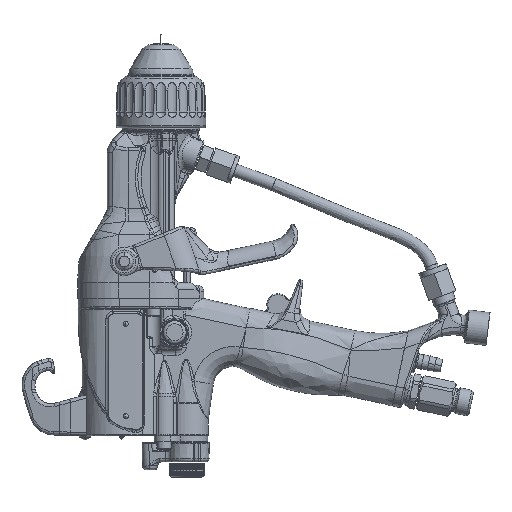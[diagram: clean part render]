
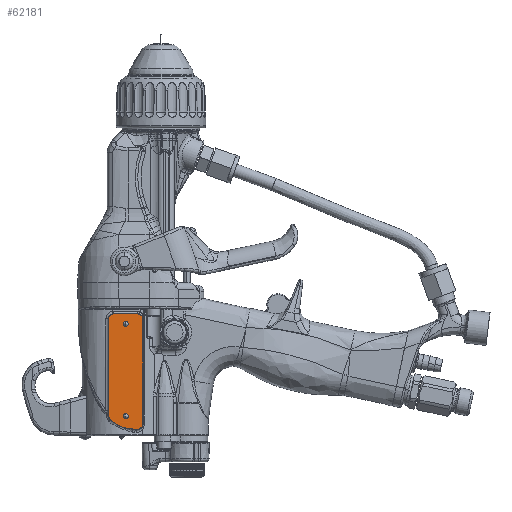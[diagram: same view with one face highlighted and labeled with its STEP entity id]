
A CAD part, left-side view. The second image highlights one B-rep face of the part: STEP entity #62181.
In plain terms, the highlighted planar face has unit normal (-1, 0, 0).
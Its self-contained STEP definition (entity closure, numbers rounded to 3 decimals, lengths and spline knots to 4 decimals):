
#53945=CARTESIAN_POINT('',(-0.755,0.4555,-4.42));
#53946=DIRECTION('',(-1.,0.,0.));
#53947=DIRECTION('',(0.,-1.,0.));
#53948=AXIS2_PLACEMENT_3D('',#53945,#53946,#53947);
#53950=DIRECTION('',(0.,0.,1.));
#53951=VECTOR('',#53950,2.062);
#53952=CARTESIAN_POINT('',(-0.755,0.357,-6.482));
#53953=LINE('',#53952,#53951);
#53954=CARTESIAN_POINT('',(-0.755,0.4555,-6.482));
#53955=DIRECTION('',(-1.,0.,0.));
#53956=DIRECTION('',(0.,0.,-1.));
#53957=AXIS2_PLACEMENT_3D('',#53954,#53955,#53956);
#53959=DIRECTION('',(0.,-1.,0.));
#53960=VECTOR('',#53959,0.087);
#53961=CARTESIAN_POINT('',(-0.755,0.5425,-6.5805));
#53962=LINE('',#53961,#53960);
#53963=CARTESIAN_POINT('',(-0.755,0.5425,-5.942));
#53964=DIRECTION('',(-1.,0.,0.));
#53965=DIRECTION('',(0.,0.713,-0.701));
#53966=AXIS2_PLACEMENT_3D('',#53963,#53964,#53965);
#53968=CARTESIAN_POINT('',(-0.755,0.9205,-6.3135));
#53969=DIRECTION('',(-1.,0.,0.));
#53970=DIRECTION('',(0.,1.,0.));
#53971=AXIS2_PLACEMENT_3D('',#53968,#53969,#53970);
#53973=DIRECTION('',(0.,0.,-1.));
#53974=VECTOR('',#53973,1.8935);
#53975=CARTESIAN_POINT('',(-0.755,1.029,-4.42));
#53976=LINE('',#53975,#53974);
#53977=CARTESIAN_POINT('',(-0.755,0.9305,-4.42));
#53978=DIRECTION('',(-1.,0.,0.));
#53979=DIRECTION('',(0.,0.,1.));
#53980=AXIS2_PLACEMENT_3D('',#53977,#53978,#53979);
#53982=DIRECTION('',(0.,-1.,0.));
#53983=VECTOR('',#53982,0.475);
#53984=CARTESIAN_POINT('',(-0.755,0.9305,-4.3215));
#53985=LINE('',#53984,#53983);
#58632=CARTESIAN_POINT('',(-0.755,0.357,-4.42));
#58633=CARTESIAN_POINT('',(-0.755,0.4555,-4.3215));
#58634=VERTEX_POINT('',#58632);
#58635=VERTEX_POINT('',#58633);
#58636=CARTESIAN_POINT('',(-0.755,0.9305,-4.3215));
#58637=VERTEX_POINT('',#58636);
#58638=CARTESIAN_POINT('',(-0.755,1.029,-4.42));
#58639=VERTEX_POINT('',#58638);
#58640=CARTESIAN_POINT('',(-0.755,1.029,-6.3135));
#58641=VERTEX_POINT('',#58640);
#58642=CARTESIAN_POINT('',(-0.755,0.9979,-6.3895));
#58643=VERTEX_POINT('',#58642);
#58644=CARTESIAN_POINT('',(-0.755,0.5425,-6.5805));
#58645=VERTEX_POINT('',#58644);
#58646=CARTESIAN_POINT('',(-0.755,0.4555,-6.5805));
#58647=VERTEX_POINT('',#58646);
#58648=CARTESIAN_POINT('',(-0.755,0.357,-6.482));
#58649=VERTEX_POINT('',#58648);
#62156=CARTESIAN_POINT('',(-0.755,0.1305,-3.75));
#62157=DIRECTION('',(1.,0.,0.));
#62158=DIRECTION('',(0.,0.,-1.));
#62159=AXIS2_PLACEMENT_3D('',#62156,#62157,#62158);
#62160=PLANE('',#62159);
#62162=ORIENTED_EDGE('',*,*,#62161,.F.);
#62164=ORIENTED_EDGE('',*,*,#62163,.F.);
#62166=ORIENTED_EDGE('',*,*,#62165,.F.);
#62168=ORIENTED_EDGE('',*,*,#62167,.F.);
#62170=ORIENTED_EDGE('',*,*,#62169,.F.);
#62172=ORIENTED_EDGE('',*,*,#62171,.F.);
#62174=ORIENTED_EDGE('',*,*,#62173,.F.);
#62176=ORIENTED_EDGE('',*,*,#62175,.F.);
#62178=ORIENTED_EDGE('',*,*,#62177,.T.);
#62179=EDGE_LOOP('',(#62162,#62164,#62166,#62168,#62170,#62172,#62174,#62176,
#62178));
#62180=FACE_OUTER_BOUND('',#62179,.F.);
#62181=ADVANCED_FACE('',(#62180),#62160,.F.);
#53949=CIRCLE('',#53948,0.0985);
#53958=CIRCLE('',#53957,0.0985);
#53967=CIRCLE('',#53966,0.6385);
#53972=CIRCLE('',#53971,0.1085);
#53981=CIRCLE('',#53980,0.0985);
#62161=EDGE_CURVE('',#58634,#58635,#53949,.T.);
#62163=EDGE_CURVE('',#58649,#58634,#53953,.T.);
#62165=EDGE_CURVE('',#58647,#58649,#53958,.T.);
#62167=EDGE_CURVE('',#58645,#58647,#53962,.T.);
#62169=EDGE_CURVE('',#58643,#58645,#53967,.T.);
#62171=EDGE_CURVE('',#58641,#58643,#53972,.T.);
#62173=EDGE_CURVE('',#58639,#58641,#53976,.T.);
#62175=EDGE_CURVE('',#58637,#58639,#53981,.T.);
#62177=EDGE_CURVE('',#58637,#58635,#53985,.T.);
